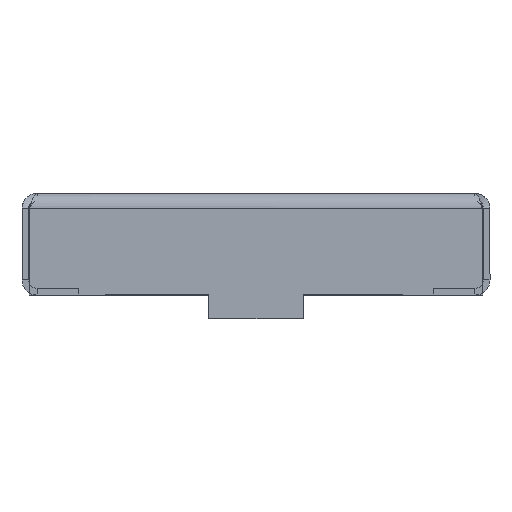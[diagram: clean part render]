
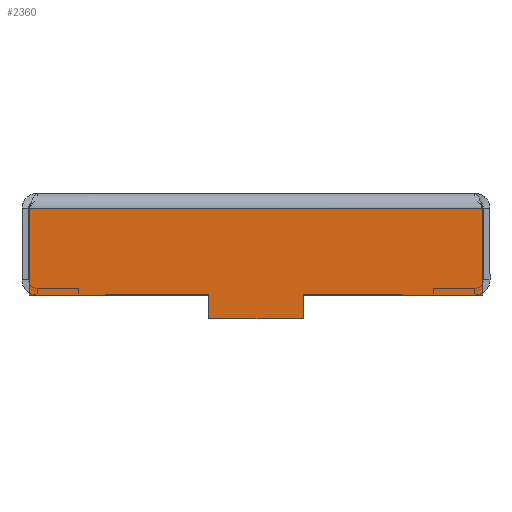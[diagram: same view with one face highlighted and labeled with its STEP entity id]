
A CAD part, left-side view. The second image highlights one B-rep face of the part: STEP entity #2360.
In plain terms, the highlighted planar face has unit normal (-1, 0, 0).
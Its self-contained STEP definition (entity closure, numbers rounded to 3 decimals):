
#196 = LINE ( 'NONE', #1464, #4553 ) ;
#238 = CARTESIAN_POINT ( 'NONE',  ( -240.65, -47.923, -3.2 ) ) ;
#368 = CARTESIAN_POINT ( 'NONE',  ( -240.65, -10., -26.5 ) ) ;
#383 = LINE ( 'NONE', #5056, #2612 ) ;
#525 = LINE ( 'NONE', #3886, #813 ) ;
#553 = EDGE_CURVE ( 'NONE', #2846, #752, #525, .T. ) ;
#610 = VECTOR ( 'NONE', #1440, 1000. ) ;
#750 = VERTEX_POINT ( 'NONE', #238 ) ;
#752 = VERTEX_POINT ( 'NONE', #1403 ) ;
#787 = VECTOR ( 'NONE', #4784, 1000. ) ;
#813 = VECTOR ( 'NONE', #1295, 1000. ) ;
#895 = DIRECTION ( 'NONE',  ( 0., 0., -1. ) ) ;
#1222 = CARTESIAN_POINT ( 'NONE',  ( -240.65, 0., 0. ) ) ;
#1295 = DIRECTION ( 'NONE',  ( 0., 0., -1. ) ) ;
#1321 = CARTESIAN_POINT ( 'NONE',  ( -240.65, 47.923, -21.5 ) ) ;
#1387 = EDGE_CURVE ( 'NONE', #752, #2824, #1795, .T. ) ;
#1403 = CARTESIAN_POINT ( 'NONE',  ( -240.65, 10., -26.5 ) ) ;
#1440 = DIRECTION ( 'NONE',  ( 0., 1., 0. ) ) ;
#1464 = CARTESIAN_POINT ( 'NONE',  ( -240.65, -47.923, -1.4 ) ) ;
#1500 = CARTESIAN_POINT ( 'NONE',  ( -240.65, 47.923, -3.2 ) ) ;
#1545 = ORIENTED_EDGE ( 'NONE', *, *, #4341, .T. ) ;
#1572 = EDGE_LOOP ( 'NONE', ( #1832, #1545, #2785, #4080, #3852, #4436, #2185, #2489 ) ) ;
#1580 = AXIS2_PLACEMENT_3D ( 'NONE', #1222, #4154, #895 ) ;
#1633 = VERTEX_POINT ( 'NONE', #1321 ) ;
#1773 = EDGE_CURVE ( 'NONE', #5059, #750, #4750, .T. ) ;
#1795 = LINE ( 'NONE', #3463, #787 ) ;
#1827 = CARTESIAN_POINT ( 'NONE',  ( -240.65, -10., -21.5 ) ) ;
#1832 = ORIENTED_EDGE ( 'NONE', *, *, #1773, .F. ) ;
#2046 = DIRECTION ( 'NONE',  ( 0., 0., 1. ) ) ;
#2183 = CARTESIAN_POINT ( 'NONE',  ( -240.65, -49.5, -21.5 ) ) ;
#2185 = ORIENTED_EDGE ( 'NONE', *, *, #2466, .F. ) ;
#2218 = VECTOR ( 'NONE', #3263, 1000. ) ;
#2311 = DIRECTION ( 'NONE',  ( 0., 0., -1. ) ) ;
#2360 = ADVANCED_FACE ( 'NONE', ( #3414 ), #4993, .F. ) ;
#2466 = EDGE_CURVE ( 'NONE', #2742, #3512, #3083, .T. ) ;
#2489 = ORIENTED_EDGE ( 'NONE', *, *, #5411, .F. ) ;
#2612 = VECTOR ( 'NONE', #4946, 1000. ) ;
#2742 = VERTEX_POINT ( 'NONE', #3703 ) ;
#2759 = EDGE_CURVE ( 'NONE', #2824, #3512, #4117, .T. ) ;
#2785 = ORIENTED_EDGE ( 'NONE', *, *, #3029, .F. ) ;
#2824 = VERTEX_POINT ( 'NONE', #3494 ) ;
#2846 = VERTEX_POINT ( 'NONE', #5134 ) ;
#3029 = EDGE_CURVE ( 'NONE', #2846, #1633, #3721, .T. ) ;
#3059 = VECTOR ( 'NONE', #5169, 1000. ) ;
#3083 = LINE ( 'NONE', #2183, #610 ) ;
#3263 = DIRECTION ( 'NONE',  ( 0., 1., 0. ) ) ;
#3374 = CARTESIAN_POINT ( 'NONE',  ( -240.65, -49.5, -21.5 ) ) ;
#3414 = FACE_OUTER_BOUND ( 'NONE', #1572, .T. ) ;
#3463 = CARTESIAN_POINT ( 'NONE',  ( -240.65, -10., -26.5 ) ) ;
#3494 = CARTESIAN_POINT ( 'NONE',  ( -240.65, -10., -26.5 ) ) ;
#3512 = VERTEX_POINT ( 'NONE', #1827 ) ;
#3703 = CARTESIAN_POINT ( 'NONE',  ( -240.65, -47.923, -21.5 ) ) ;
#3721 = LINE ( 'NONE', #3374, #2218 ) ;
#3852 = ORIENTED_EDGE ( 'NONE', *, *, #1387, .T. ) ;
#3886 = CARTESIAN_POINT ( 'NONE',  ( -240.65, 10., -26.5 ) ) ;
#3935 = VECTOR ( 'NONE', #2046, 1000. ) ;
#3987 = CARTESIAN_POINT ( 'NONE',  ( -240.65, -49.5, -3.2 ) ) ;
#4080 = ORIENTED_EDGE ( 'NONE', *, *, #553, .T. ) ;
#4117 = LINE ( 'NONE', #368, #3935 ) ;
#4154 = DIRECTION ( 'NONE',  ( 1., 0., 0. ) ) ;
#4341 = EDGE_CURVE ( 'NONE', #5059, #1633, #383, .T. ) ;
#4436 = ORIENTED_EDGE ( 'NONE', *, *, #2759, .T. ) ;
#4553 = VECTOR ( 'NONE', #2311, 1000. ) ;
#4750 = LINE ( 'NONE', #3987, #3059 ) ;
#4784 = DIRECTION ( 'NONE',  ( 0., -1., 0. ) ) ;
#4946 = DIRECTION ( 'NONE',  ( 0., 0., -1. ) ) ;
#4993 = PLANE ( 'NONE',  #1580 ) ;
#5056 = CARTESIAN_POINT ( 'NONE',  ( -240.65, 47.923, 0. ) ) ;
#5059 = VERTEX_POINT ( 'NONE', #1500 ) ;
#5134 = CARTESIAN_POINT ( 'NONE',  ( -240.65, 10., -21.5 ) ) ;
#5169 = DIRECTION ( 'NONE',  ( 0., -1., 0. ) ) ;
#5411 = EDGE_CURVE ( 'NONE', #750, #2742, #196, .T. ) ;
